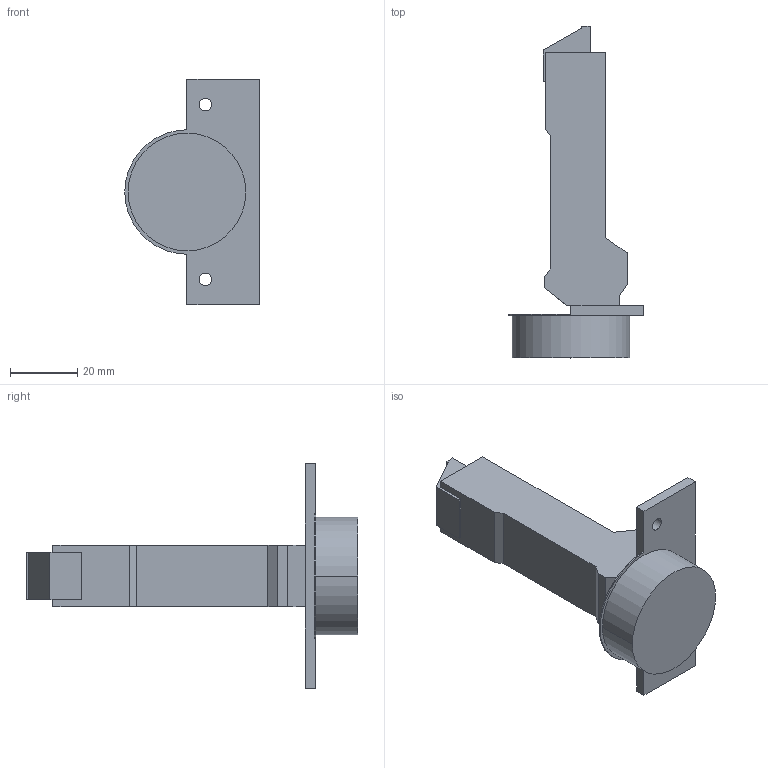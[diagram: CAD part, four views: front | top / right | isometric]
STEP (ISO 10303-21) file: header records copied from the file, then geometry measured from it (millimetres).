
FILE_DESCRIPTION (( 'STEP AP214' ), '1' );
FILE_NAME ('Scharnier TT Click-on 110° H_BB, K95.step', '2010-12-06T09:54:09', ( 'grass' ), ( '' ), 'SwSTEP 2.0', 'SolidWorks 2010', '' );
FILE_SCHEMA (( 'AUTOMOTIVE_DESIGN' ));
Length unit declared in the file: millimetre
Products named in the file (1): Scharnier TT Click-on 110° H_BB, K95
Bounding box: 40 x 98.7 x 67 mm (x, y, z)
Volume: 42433.7 mm3; surface area: 12027.9 mm2
Topology: 1 solids, 1 shells, 49 faces, 127 edges, 84 vertices
Faces by surface type: plane 36, cylinder 13
Entity records: 1533 total; most frequent: CARTESIAN_POINT 261, ORIENTED_EDGE 254, DIRECTION 253, EDGE_CURVE 127, LINE 101, VECTOR 101, VERTEX_POINT 84, AXIS2_PLACEMENT_3D 76
